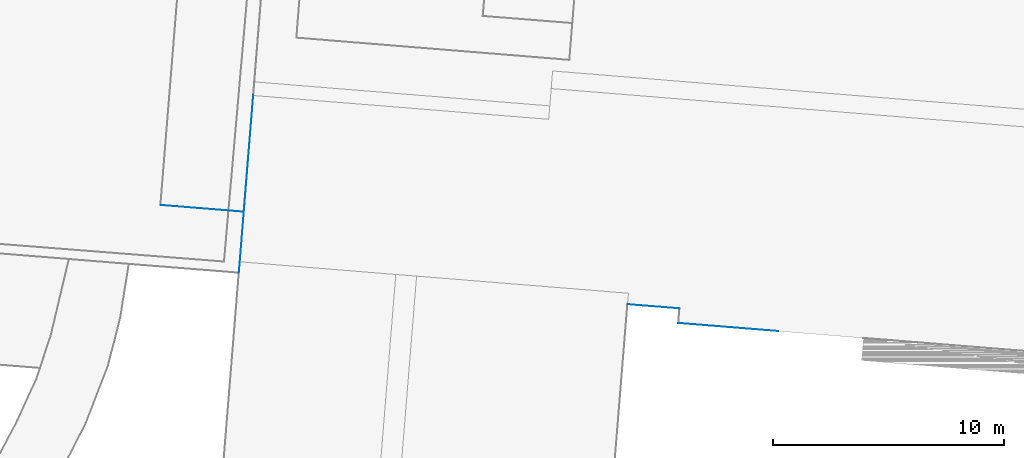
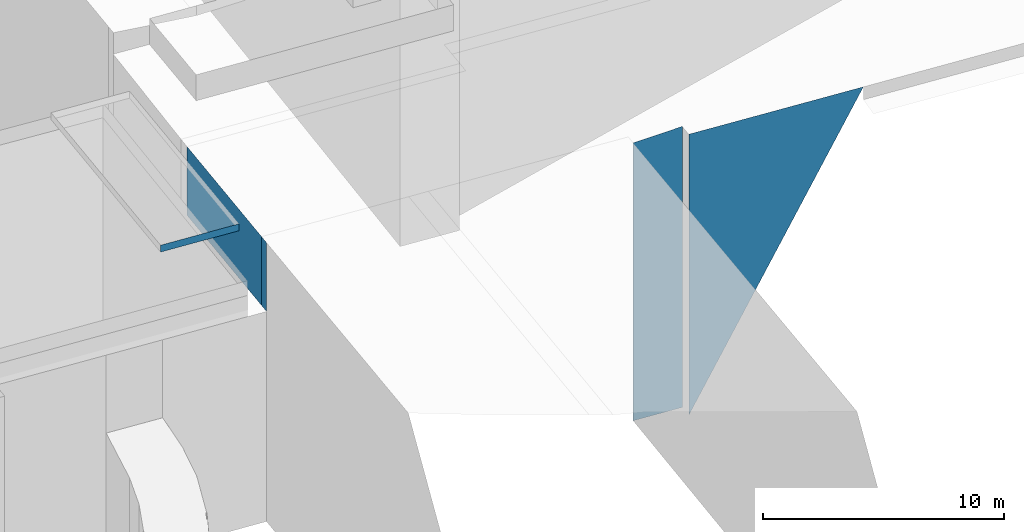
# Not in any storey, part 69 of 136: 6 walls.
"""IFC4 building model written with IfcOpenShell, lengths in metres."""

from ifc_helpers import new_model, entity, si_unit, converted_unit, frame, origin, place, context, subcontext, project, spatial, face_set, surface_model, element, save


model = new_model("IFC4")

# Units and contexts
model_context = context("Model", 3, precision=1e-05, world=origin())
body_context = subcontext(model_context, "Body", "Model", "MODEL_VIEW")
ifc_project = project(units=[converted_unit("PLANEANGLEUNIT", "DEGREE", entity("IfcRatioMeasure", 0.0174532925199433), si_unit("PLANEANGLEUNIT", "RADIAN"), dimensions=[0, 0, 0, 0, 0, 0, 0]), si_unit("AREAUNIT", "SQUARE_METRE"), si_unit("LENGTHUNIT", "METRE")], contexts=[model_context])

# Site, building
site_placement = place(None, origin())
site = spatial("IfcSite", under=ifc_project, at=site_placement, Name="_site")
building_placement = place(site_placement, origin())
building = spatial("IfcBuilding", under=site, at=building_placement, Name="_building")

# Walls
wall_1_placement = place(building_placement, origin())
element("IfcWall", 1, at=wall_1_placement, inside=building, Name="Wall", PredefinedType="NOTDEFINED", context=body_context, shape_type="SurfaceModel", body=[
    surface_model("IfcFaceBasedSurfaceModel", [(230.94, 49.32, 52.25), (228.69, 49.5, 52.09), (228.69, 49.5, 38.0), (230.94, 49.32, 38.0)], [face_set([[[0, 1, 2, 3]]])]),
])
wall_2_placement = place(building_placement, origin())
element("IfcWall", 2, at=wall_2_placement, inside=building, Name="Wall", PredefinedType="NOTDEFINED", context=body_context, shape_type="SurfaceModel", body=[
    surface_model("IfcFaceBasedSurfaceModel", [(211.93, 51.34, 52.09), (212.511, 58.53, 52.09), (212.511, 58.53, 48.6), (211.93, 51.34, 48.6)], [face_set([[[0, 1, 2, 3]]])]),
])
wall_3_placement = place(building_placement, origin())
element("IfcWall", 3, at=wall_3_placement, inside=building, Name="Wall", PredefinedType="NOTDEFINED", context=body_context, shape_type="SurfaceModel", body=[
    surface_model("IfcFaceBasedSurfaceModel", [(211.89, 50.86, 52.09), (211.93, 51.34, 52.09), (211.93, 51.34, 48.6), (211.89, 50.86, 48.6)], [face_set([[[0, 1, 2, 3]]])]),
])
wall_4_placement = place(building_placement, origin())
element("IfcWall", 4, at=wall_4_placement, inside=building, Name="Wall", PredefinedType="NOTDEFINED", context=body_context, shape_type="SurfaceModel", body=[
    surface_model("IfcFaceBasedSurfaceModel", [(238.89, 48.04, 52.25), (230.89, 48.69, 52.25), (230.89, 48.69, 37.999)], [face_set([[[0, 1, 2]]])]),
])
for number, where, name in (
    (5, (0.0, 0.0, 0.0), "Wall"),
    (6, (0.0, 0.0, 0.0), "Wall"),
):
    element("IfcWall", number, at=place(building_placement, frame(where)), inside=building, Name=name, PredefinedType="NOTDEFINED", context=body_context, shape_type="SurfaceModel", body=[
        surface_model("IfcFaceBasedSurfaceModel", [(212.1, 53.5, 51.37), (208.5, 53.79, 51.37), (208.5, 53.79, 51.02), (212.1, 53.5, 51.02)], [face_set([[[0, 1, 2, 3]]])]),
    ])

save(model, "model.ifc")
